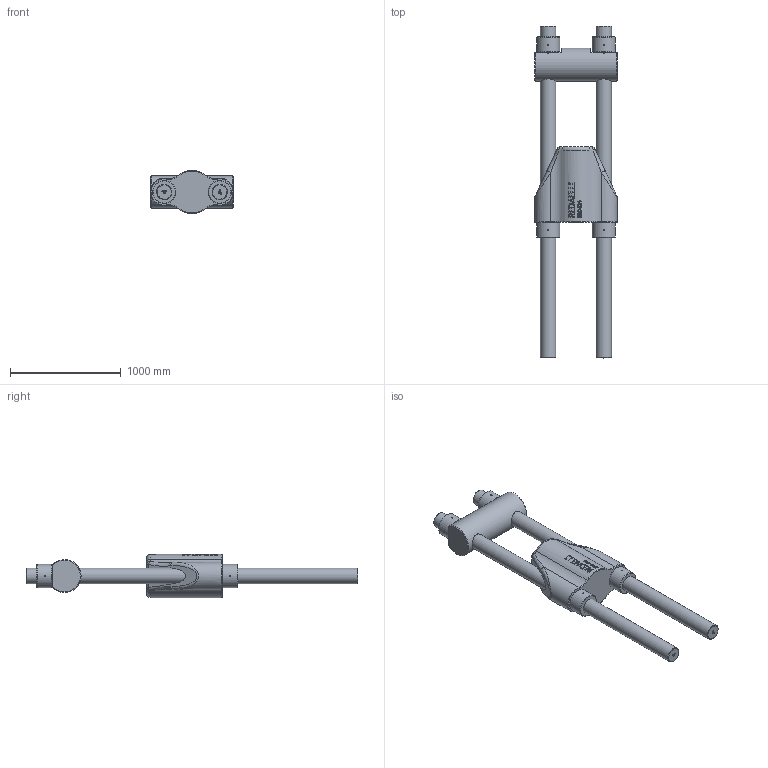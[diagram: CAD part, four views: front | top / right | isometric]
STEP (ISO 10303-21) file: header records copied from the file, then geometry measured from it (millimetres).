
FILE_DESCRIPTION(/* description */ (''),/* implementation_level */ '2;1');
FILE_NAME(/* name */ 'D:\Clienti\Redaelli (inventor)\BRC\STEP\Arrangemet\BRC124 72 111 0.stp',/* time_stamp */ '2021-05-08T08:44:07+02:00',/* author */ ('fabri'),/* organization */ (''),/* preprocessor_version */ 'ST-DEVELOPER v16.13',/* originating_system */ 'Autodesk Inventor 2018',/* authorisation */ '');
FILE_SCHEMA (('AUTOMOTIVE_DESIGN { 1 0 10303 214 3 1 1 }'));
Length unit declared in the file: millimetre
Products named in the file (5): BRC020 72 111 0; BRC020 71 112 0; BRC020 71 114 0_ROD; BRC020 71 113 0; BRC020 71 114 0_NUT
Assembly tree (8 placements, depth 2):
  BRC020 72 111 0
    BRC020 71 112 0
    BRC020 71 114 0_ROD  x2
    BRC020 71 113 0
    BRC020 71 114 0_NUT  x4
Bounding box: 750 x 3000 x 389.15 mm (x, y, z)
Volume: 246998143.2 mm3; surface area: 6215521.4 mm2
Topology: 8 solids, 8 shells, 1492 faces, 4022 edges, 2670 vertices
Faces by surface type: plane 854, bspline 515, cylinder 69, cone 30, torus 20, sphere 4
Full cylindrical faces by diameter (mm): 10 x16, 133.505 x4, 140 x2, 146 x4, 210 x4, 298 x1
Entity records: 29638 total; most frequent: CARTESIAN_POINT 10724, ORIENTED_EDGE 4370, DIRECTION 2903, EDGE_CURVE 2185, VERTEX_POINT 1456, LINE 1341, VECTOR 1341, EDGE_LOOP 929
